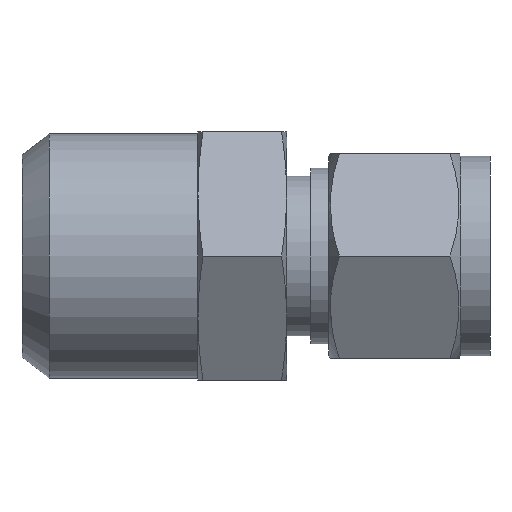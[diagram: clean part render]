
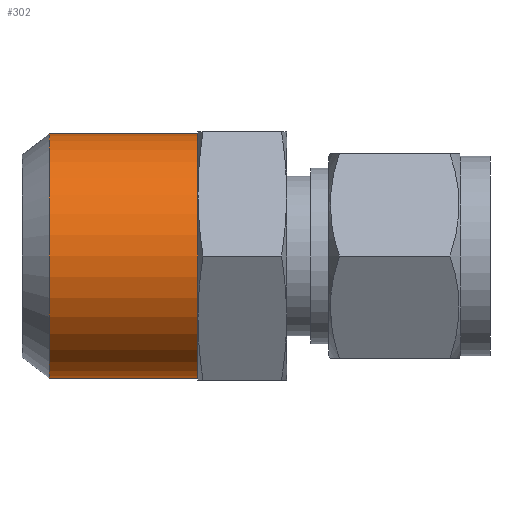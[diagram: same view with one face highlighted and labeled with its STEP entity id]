
A CAD part, front view. The second image highlights one B-rep face of the part: STEP entity #302.
In plain terms, the highlighted cylindrical face has radius 13.25 mm (diameter 26.5 mm), a partial arc.
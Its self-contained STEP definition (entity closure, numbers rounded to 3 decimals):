
#35 = EDGE_CURVE ( 'NONE', #1641, #36, #1006, .T. ) ;
#36 = VERTEX_POINT ( 'NONE', #1013 ) ;
#287 = EDGE_LOOP ( 'NONE', ( #1619, #1611, #1548, #1620 ) ) ;
#302 = ADVANCED_FACE ( 'NONE', ( #853 ), #852, .T. ) ;
#445 = DIRECTION ( 'NONE',  ( 0., 0., -1. ) ) ;
#446 = DIRECTION ( 'NONE',  ( -1., 0., 0. ) ) ;
#447 = CARTESIAN_POINT ( 'NONE',  ( -16.168, 0., 0. ) ) ;
#448 = AXIS2_PLACEMENT_3D ( 'NONE', #447, #446, #445 ) ;
#449 = CIRCLE ( 'NONE', #448, 13.25 ) ;
#526 = CARTESIAN_POINT ( 'NONE',  ( -16.168, 0., -13.25 ) ) ;
#527 = CARTESIAN_POINT ( 'NONE',  ( -16.168, 0., 13.25 ) ) ;
#848 = DIRECTION ( 'NONE',  ( 0., 0., -1. ) ) ;
#849 = DIRECTION ( 'NONE',  ( 1., 0., 0. ) ) ;
#852 = CYLINDRICAL_SURFACE ( 'NONE', #856, 13.25 ) ;
#853 = FACE_OUTER_BOUND ( 'NONE', #287, .T. ) ;
#854 = CARTESIAN_POINT ( 'NONE',  ( -19.1, 0., 0. ) ) ;
#856 = AXIS2_PLACEMENT_3D ( 'NONE', #854, #849, #848 ) ;
#1001 = VECTOR ( 'NONE', #1014, 1000. ) ;
#1002 = CARTESIAN_POINT ( 'NONE',  ( -19.1, 0., 13.25 ) ) ;
#1006 = LINE ( 'NONE', #1002, #1001 ) ;
#1013 = CARTESIAN_POINT ( 'NONE',  ( 0., 0., 13.25 ) ) ;
#1014 = DIRECTION ( 'NONE',  ( 1., 0., 0. ) ) ;
#1102 = VECTOR ( 'NONE', #1104, 1000. ) ;
#1104 = DIRECTION ( 'NONE',  ( 1., 0., 0. ) ) ;
#1106 = CARTESIAN_POINT ( 'NONE',  ( -19.1, 0., -13.25 ) ) ;
#1441 = LINE ( 'NONE', #1106, #1102 ) ;
#1446 = CARTESIAN_POINT ( 'NONE',  ( 0., 0., -13.25 ) ) ;
#1449 = DIRECTION ( 'NONE',  ( 0., 0., -1. ) ) ;
#1450 = DIRECTION ( 'NONE',  ( -1., 0., 0. ) ) ;
#1451 = CARTESIAN_POINT ( 'NONE',  ( 0., 0., 0. ) ) ;
#1452 = AXIS2_PLACEMENT_3D ( 'NONE', #1451, #1450, #1449 ) ;
#1453 = CIRCLE ( 'NONE', #1452, 13.25 ) ;
#1546 = EDGE_CURVE ( 'NONE', #1553, #36, #1453, .T. ) ;
#1548 = ORIENTED_EDGE ( 'NONE', *, *, #1555, .T. ) ;
#1553 = VERTEX_POINT ( 'NONE', #1446 ) ;
#1555 = EDGE_CURVE ( 'NONE', #1642, #1553, #1441, .T. ) ;
#1605 = EDGE_CURVE ( 'NONE', #1642, #1641, #449, .T. ) ;
#1611 = ORIENTED_EDGE ( 'NONE', *, *, #1605, .F. ) ;
#1619 = ORIENTED_EDGE ( 'NONE', *, *, #35, .F. ) ;
#1620 = ORIENTED_EDGE ( 'NONE', *, *, #1546, .T. ) ;
#1641 = VERTEX_POINT ( 'NONE', #527 ) ;
#1642 = VERTEX_POINT ( 'NONE', #526 ) ;
